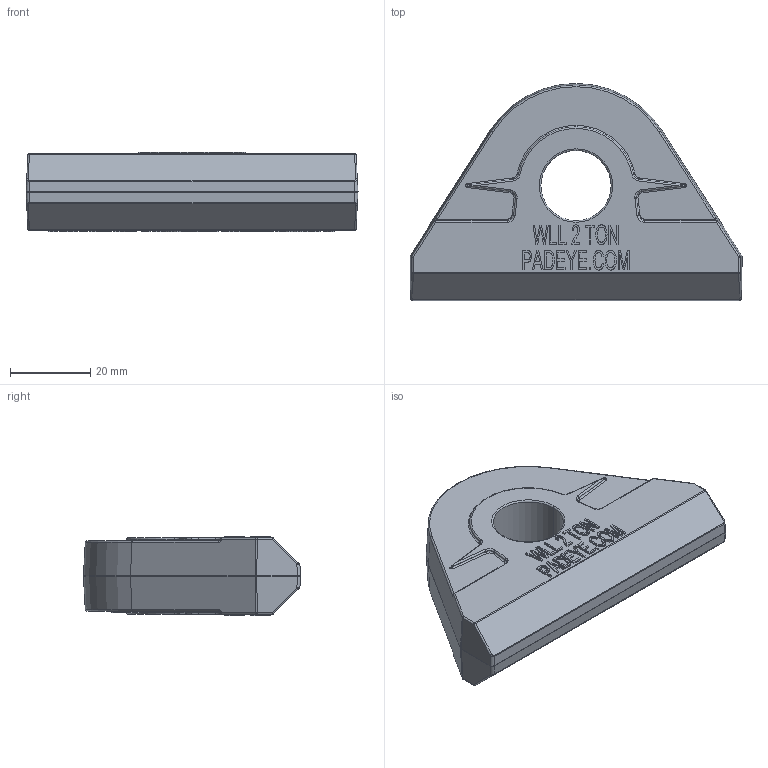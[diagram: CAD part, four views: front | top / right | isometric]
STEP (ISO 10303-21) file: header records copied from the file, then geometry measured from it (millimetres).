
FILE_DESCRIPTION (( 'STEP AP214' ), '1' );
FILE_NAME ('CSD.STEP', '2024-04-23T14:19:26', ( '' ), ( '' ), 'SwSTEP 2.0', 'SolidWorks 2018', '' );
FILE_SCHEMA (( 'AUTOMOTIVE_DESIGN' ));
Length unit declared in the file: inch
Products named in the file (1): CSD
Bounding box: 82.55 x 53.97 x 19.81 mm (x, y, z)
Volume: 50865.8 mm3; surface area: 10911.9 mm2
Topology: 1 solids, 1 shells, 1152 faces, 3026 edges, 1959 vertices
Faces by surface type: plane 757, bspline 235, cylinder 97, torus 46, sphere 15, cone 2
Entity records: 44201 total; most frequent: CARTESIAN_POINT 17285, ORIENTED_EDGE 6028, DIRECTION 4637, EDGE_CURVE 3014, LINE 2287, VECTOR 2287, VERTEX_POINT 1959, EDGE_LOOP 1249
